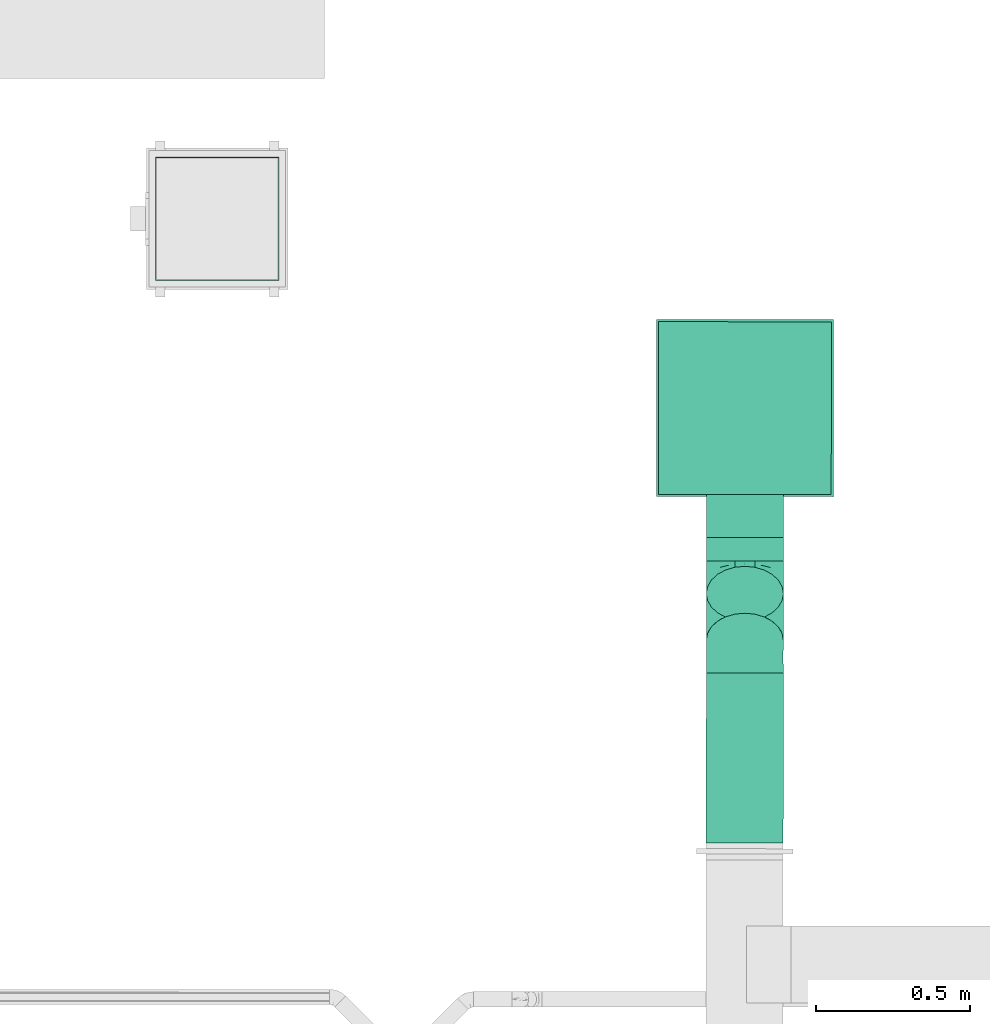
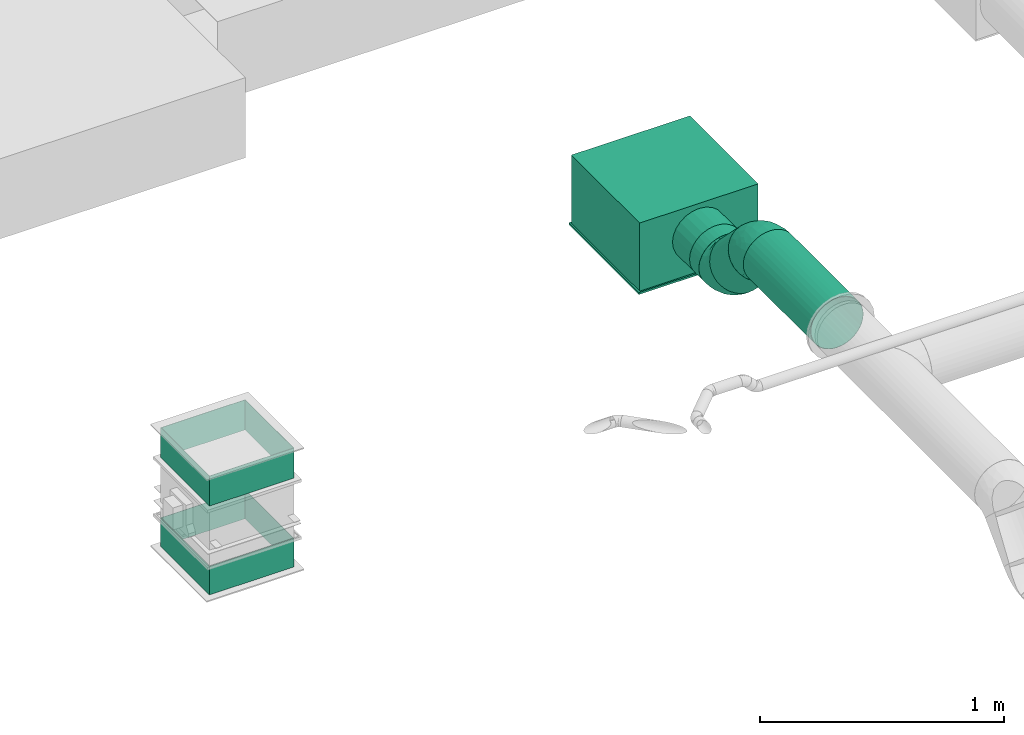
# One storey, part 23 of 63: 5 flow segments, 2 flow fittings, 1 flow terminal.
"""IFC2X3 building model written with IfcOpenShell, lengths in millimetres."""

from ifc_helpers import new_model, entity, si_unit, converted_unit, derived_unit, direction, frame, origin_with_axes, origin_2d_with_axis, place, context, subcontext, project, spatial, hollow_rectangle, hollow_circle, extrude, open_shell, surface_model, source, transform, mapped, type_object, element, save


model = new_model("IFC2X3")

# Units and contexts
model_context = context("Model", 3, precision=0.01, world=frame((0.0, 4.29681676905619e-09, 0.0)), true_north=direction((4.01073788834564e-13, 1.0)))
plan_context = context("Plan", 3, precision=0.01, world=frame((0.0, 4.29681676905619e-09, 0.0)), true_north=direction((4.01073788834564e-13, 1.0)))
body_context = subcontext(model_context, "Body", "Model", "MODEL_VIEW")
ifc_project = project(units=[converted_unit("PLANEANGLEUNIT", "DEGREE", entity("IfcPositiveLengthMeasure", 0.0174532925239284), si_unit("PLANEANGLEUNIT", "RADIAN"), dimensions=[0, 0, 0, 0, 0, 0, 0]), si_unit("AREAUNIT", "SQUARE_METRE"), si_unit("LENGTHUNIT", "METRE", prefix="MILLI"), si_unit("MASSUNIT", "GRAM", prefix="KILO"), si_unit("POWERUNIT", "WATT"), si_unit("PRESSUREUNIT", "PASCAL"), si_unit("FORCEUNIT", "NEWTON", prefix="KILO"), si_unit("ELECTRICVOLTAGEUNIT", "VOLT"), si_unit("ELECTRICCURRENTUNIT", "AMPERE"), si_unit("THERMODYNAMICTEMPERATUREUNIT", "DEGREE_CELSIUS"), si_unit("TIMEUNIT", "SECOND"), si_unit("VOLUMEUNIT", "CUBIC_METRE"), derived_unit("LINEARVELOCITYUNIT", [(si_unit("LENGTHUNIT", "METRE"), 1), (si_unit("TIMEUNIT", "SECOND"), -1)]), derived_unit("VOLUMETRICFLOWRATEUNIT", [(si_unit("VOLUMEUNIT", "CUBIC_METRE"), 1), (si_unit("TIMEUNIT", "SECOND"), -1)]), derived_unit("THERMALTRANSMITTANCEUNIT", [(si_unit("POWERUNIT", "WATT"), 1), (si_unit("THERMODYNAMICTEMPERATUREUNIT", "KELVIN"), -1), (si_unit("AREAUNIT", "SQUARE_METRE"), -1)]), derived_unit("SOUNDPRESSUREUNIT", [(si_unit("PRESSUREUNIT", "PASCAL"), 1)])], contexts=[model_context, plan_context])

# Site, building, storey
site_placement = place(None, frame((0.0, -4.29681676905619e-09, 0.0), z_axis=(0.0, 0.0, 1.0), x_axis=(1.0, 0.0, 0.0)))
site = spatial("IfcSite", under=ifc_project, at=site_placement, CompositionType="ELEMENT")
building_placement = place(site_placement, frame((0.0, 4.29681676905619e-09, 0.0), z_axis=(0.0, 0.0, 1.0), x_axis=(1.0, 0.0, 0.0)))
building = spatial("IfcBuilding", under=site, at=building_placement, Name="mc-building", CompositionType="ELEMENT")
storey_placement = place(building_placement, frame((0.0, 0.0, 210900.0), z_axis=(0.0, 0.0, 1.0), x_axis=(1.0, 0.0, 0.0)))
storey = spatial("IfcBuildingStorey", under=building, at=storey_placement, Name="Nivå F", CompositionType="ELEMENT", Elevation=210900.0)

# Flow fittings
duct_fitting_type = type_object("IfcDuctFittingType", Name="magicirc_elbow_short_001", PredefinedType="BEND")
shared_shape_1 = source(origin_with_axes(), body_context, "Body", "SurfaceModel", [
    surface_model("IfcShellBasedSurfaceModel", [(-62.13204, 0.0, -125.0), (-62.13204, -32.35238, -120.74073), (-62.13204, 32.35238, -120.74073), (-62.13204, 62.5, -108.25318), (-62.13204, 88.38835, -88.38835), (-62.13204, 108.25318, -62.5), (-62.13204, 120.74073, -32.35238), (-62.13204, -62.5, -108.25318), (-62.13204, -88.38835, -88.38835), (-62.13204, -125.0, 0.0), (-62.13204, -108.25318, -62.5), (-62.13204, -120.74073, -32.35238), (-62.13204, 125.0, 0.0), (-62.13204, -120.74073, 32.35238), (-62.13204, 120.74073, 32.35238), (-62.13204, 108.25318, 62.5), (-62.13204, 32.35238, 120.74073), (-62.13204, 62.5, 108.25318), (-62.13204, 88.38835, 88.38835), (-62.13204, -88.38835, 88.38835), (-62.13204, -108.25318, 62.5), (-62.13204, -32.35238, 120.74073), (-62.13204, 0.0, 125.0), (-62.13204, -62.5, 108.25318), (-32.61257, 120.48054, -62.5), (-41.44261, 129.31057, -32.35238), (-44.45436, 132.32233, 0.0), (-41.44261, 129.31057, 32.35238), (-32.61257, 120.48054, 62.5), (-39.32094, -100.77129, 72.52866), (-25.3983, -115.58366, 40.92131), (-9.38975, -99.61313, 67.6303), (-40.71594, 99.20513, 81.38635), (-18.56602, 106.43398, 88.38835), (6.93461, -16.74165, 121.22697), (-29.92798, -19.88945, 122.8817), (-17.69423, -50.99343, 111.83063), (-28.63512, 12.8945, 124.68547), (-43.55871, 45.16564, 117.17454), (-19.1971, 46.34588, 119.14586), (20.11216, -107.05726, 35.36285), (37.22525, -89.79474, 60.1728), (-42.64489, 65.81413, 107.6176), (18.18237, -43.89615, 109.72868), (-48.14682, 116.23669, 52.46898), (11.13029, 29.36587, 124.68547), (-8.4822, -119.71595, 0.0), (17.31186, -111.89141, 0.0), (-27.44697, 77.92943, 103.54984), (-1.13628, 62.73759, 117.17454), (-0.26019, 88.12816, 108.25318), (29.58221, -71.41779, 87.09722), (2.27359, -83.55864, 84.32151), (46.20365, -49.09439, 98.73245), (43.10591, -104.06687, 0.0), (-28.63512, 12.89449, -124.68547), (-29.92797, -19.88945, -122.8817), (11.13029, 29.36586, -124.68547), (-19.1971, 46.34588, -119.14586), (-43.55871, 45.16564, -117.17454), (-35.69649, 74.51237, -103.54983), (-25.3983, -115.58366, -40.92131), (-48.14682, 116.23669, -52.46898), (-39.32094, -100.77129, -72.52866), (-16.38313, 76.69211, -107.6176), (-18.56602, 106.43398, -88.38835), (-0.26019, 88.12816, -108.25318), (-17.69423, -50.99343, -111.83063), (6.93461, -16.74165, -121.22697), (-1.13628, 62.73759, -117.17454), (48.5695, -23.54609, -111.83063), (35.22623, 7.0983, -122.8817), (-9.38975, -99.61313, -67.63031), (2.04406, -67.38589, -98.73245), (29.58221, -71.41778, -87.09723), (43.93399, 43.934, -125.0), (106.43399, -18.56599, 88.38835), (132.32235, -44.45434, 0.0), (21.05739, 66.81058, -120.74073), (88.12817, -0.26017, 108.25318), (66.81057, 21.05741, -120.74073), (106.43399, -18.56599, -88.38835), (88.12817, -0.26017, -108.25318), (129.31058, -41.44258, -32.35238), (120.48055, -32.61255, -62.5), (21.05739, 66.81058, 120.74073), (43.93399, 43.934, 125.0), (129.31058, -41.44258, 32.35238), (120.48055, -32.61255, 62.5), (66.81057, 21.05741, 120.74073), (-31.08246, -121.94188, 0.0), (35.22622, 7.09831, 122.8817), (-25.98217, -78.69805, 94.74512), (-3.43913, -67.17105, 100.02812), (77.07669, -63.79755, 67.6303), (61.9235, -89.5906, 35.66991), (-52.56496, 126.90301, 0.0), (99.68931, -63.77067, 40.92131), (48.5695, -23.54609, 111.83062), (99.06018, -43.45194, 72.52866), (74.0201, -37.27574, 94.74512), (108.20455, -64.2473, 0.0), (90.64979, -78.65413, 0.0), (66.87785, -91.36049, 0.0), (19.56361, -107.13664, -35.66991), (-41.35812, 98.93914, -81.38635), (-25.98217, -78.69805, -94.74512), (61.47949, -89.92235, -35.36285), (18.18239, -43.89616, -109.72867), (57.47721, -60.69254, -84.32152), (74.02009, -37.27574, -94.74513), (77.07669, -63.79755, -67.6303), (37.17223, -89.81669, -60.17279), (99.68931, -63.77066, -40.92131), (99.06018, -43.45194, -72.52866), (49.92893, -45.06527, -100.02812)], [open_shell([[[0, 1, 2]], [[3, 2, 4]], [[1, 5, 2]], [[4, 2, 5]], [[5, 1, 6]], [[7, 8, 1]], [[9, 1, 8]], [[10, 11, 8]], [[9, 8, 11]], [[9, 6, 1]], [[9, 12, 6]], [[12, 13, 14]], [[15, 14, 16]], [[16, 17, 18]], [[15, 16, 18]], [[16, 14, 19]], [[20, 19, 13]], [[19, 14, 13]], [[21, 22, 23]], [[19, 23, 22]], [[19, 22, 16]], [[9, 13, 12]], [[24, 25, 26]], [[26, 27, 28]], [[29, 30, 31]], [[32, 33, 28]], [[30, 20, 13]], [[34, 35, 36]], [[21, 35, 22]], [[21, 23, 36]], [[16, 22, 37]], [[38, 37, 39]], [[31, 40, 41]], [[42, 17, 38]], [[38, 17, 16]], [[43, 34, 36]], [[35, 37, 22]], [[14, 15, 44]], [[42, 32, 18]], [[29, 19, 20]], [[40, 31, 30]], [[37, 45, 39]], [[45, 37, 34]], [[40, 46, 47]], [[42, 18, 17]], [[33, 32, 48]], [[27, 44, 28]], [[48, 39, 49]], [[33, 48, 50]], [[44, 32, 28]], [[18, 32, 15]], [[36, 35, 21]], [[37, 35, 34]], [[41, 51, 52]], [[14, 44, 27]], [[32, 44, 15]], [[37, 38, 16]], [[42, 39, 48]], [[39, 42, 38]], [[42, 48, 32]], [[48, 49, 50]], [[45, 49, 39]], [[30, 29, 20]], [[53, 43, 51]], [[46, 40, 30]], [[47, 54, 40]], [[41, 52, 31]], [[0, 2, 55]], [[56, 1, 0]], [[57, 55, 58]], [[59, 60, 58]], [[10, 61, 11]], [[3, 4, 60]], [[62, 6, 25]], [[61, 10, 63]], [[64, 65, 66]], [[1, 56, 67]], [[8, 63, 10]], [[7, 1, 67]], [[56, 55, 68]], [[25, 24, 62]], [[69, 64, 66]], [[2, 3, 59]], [[59, 55, 2]], [[69, 57, 58]], [[70, 68, 71]], [[55, 57, 68]], [[55, 56, 0]], [[67, 56, 68]], [[57, 71, 68]], [[6, 62, 5]], [[60, 59, 3]], [[55, 59, 58]], [[64, 58, 60]], [[58, 64, 69]], [[61, 63, 72]], [[72, 73, 74]], [[75, 76, 77]], [[66, 26, 78]], [[78, 79, 75]], [[24, 66, 65]], [[66, 24, 26]], [[80, 81, 82]], [[80, 75, 81]], [[81, 83, 84]], [[83, 81, 77]], [[75, 77, 81]], [[26, 28, 50]], [[50, 85, 26]], [[50, 28, 33]], [[26, 85, 86]], [[87, 76, 88]], [[77, 76, 87]], [[79, 86, 89]], [[76, 75, 79]], [[86, 79, 26]], [[78, 26, 79]], [[90, 46, 30]], [[91, 45, 34]], [[23, 92, 36]], [[52, 93, 92]], [[94, 41, 95]], [[23, 19, 92]], [[96, 14, 27]], [[40, 95, 41]], [[96, 12, 14]], [[94, 95, 97]], [[40, 54, 95]], [[98, 89, 91]], [[99, 88, 76]], [[89, 98, 79]], [[88, 99, 97]], [[88, 97, 87]], [[98, 100, 79]], [[53, 94, 100]], [[97, 101, 87]], [[85, 50, 49]], [[41, 94, 51]], [[30, 13, 90]], [[26, 96, 27]], [[95, 102, 97]], [[95, 54, 103]], [[86, 91, 89]], [[86, 85, 45]], [[45, 85, 49]], [[34, 43, 98]], [[29, 92, 19]], [[79, 100, 76]], [[52, 92, 31]], [[95, 103, 102]], [[53, 100, 98]], [[99, 100, 94]], [[45, 91, 86]], [[98, 91, 34]], [[13, 9, 90]], [[101, 97, 102]], [[101, 77, 87]], [[92, 29, 31]], [[100, 99, 76]], [[97, 99, 94]], [[93, 36, 92]], [[51, 43, 93]], [[51, 93, 52]], [[43, 36, 93]], [[43, 53, 98]], [[94, 53, 51]], [[104, 46, 61]], [[78, 75, 57]], [[4, 105, 60]], [[73, 72, 106]], [[80, 82, 70]], [[61, 90, 11]], [[83, 77, 101]], [[106, 7, 67]], [[107, 102, 103]], [[104, 54, 47]], [[72, 104, 61]], [[106, 8, 7]], [[68, 108, 67]], [[6, 12, 96]], [[109, 110, 111]], [[96, 26, 25]], [[112, 72, 74]], [[113, 83, 101]], [[82, 81, 110]], [[113, 84, 83]], [[64, 105, 65]], [[4, 5, 105]], [[114, 81, 84]], [[110, 109, 115]], [[70, 82, 110]], [[66, 78, 69]], [[75, 80, 71]], [[111, 114, 113]], [[108, 68, 70]], [[113, 101, 102]], [[107, 104, 112]], [[107, 111, 113]], [[111, 107, 112]], [[71, 57, 75]], [[104, 47, 46]], [[96, 25, 6]], [[114, 110, 81]], [[107, 54, 104]], [[73, 106, 67]], [[63, 106, 72]], [[62, 105, 5]], [[65, 105, 24]], [[70, 71, 80]], [[90, 61, 46]], [[90, 9, 11]], [[72, 112, 104]], [[112, 74, 109]], [[105, 62, 24]], [[57, 69, 78]], [[64, 60, 105]], [[113, 114, 84]], [[110, 114, 111]], [[106, 63, 8]], [[115, 70, 110]], [[73, 108, 74]], [[102, 107, 113]], [[103, 54, 107]], [[112, 109, 111]], [[74, 108, 115]], [[74, 115, 109]], [[108, 70, 115]], [[108, 73, 67]]])]),
])
flow_fitting_1_placement = place(storey_placement, frame((523302.91566, 453842.54179, 3960.01264), z_axis=(-0.999999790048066, 0.000647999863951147, 0.0), x_axis=(-0.000647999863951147, -0.999999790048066, 0.0)))
element("IfcFlowFitting", 1, at=flow_fitting_1_placement, inside=storey, type_object=duct_fitting_type, Name="magicirc_elbow_short_001", context=body_context, shape_type="MappedRepresentation", body=[
    mapped(shared_shape_1, transform((0.0, 0.0, 0.0), scale=1.0)),
])
shared_shape_2 = source(origin_with_axes(), body_context, "Body", "SurfaceModel", [
    surface_model("IfcShellBasedSurfaceModel", [(-62.13204, 0.0, -125.0), (-62.13204, -32.35238, -120.74073), (-62.13204, 32.35238, -120.74073), (-62.13204, 62.5, -108.25318), (-62.13204, 88.38835, -88.38835), (-62.13204, 108.25318, -62.5), (-62.13204, 120.74073, -32.35238), (-62.13204, -62.5, -108.25318), (-62.13204, -88.38835, -88.38835), (-62.13204, -125.0, 0.0), (-62.13204, -108.25318, -62.5), (-62.13204, -120.74073, -32.35238), (-62.13204, 125.0, 0.0), (-62.13204, -120.74073, 32.35238), (-62.13204, 120.74073, 32.35238), (-62.13204, 108.25318, 62.5), (-62.13204, 32.35238, 120.74073), (-62.13204, 62.5, 108.25318), (-62.13204, 88.38835, 88.38835), (-62.13204, -88.38835, 88.38835), (-62.13204, -108.25318, 62.5), (-62.13204, -32.35238, 120.74073), (-62.13204, 0.0, 125.0), (-62.13204, -62.5, 108.25318), (-32.61257, 120.48054, -62.5), (-41.44261, 129.31057, -32.35238), (-44.45436, 132.32233, 0.0), (-41.44261, 129.31057, 32.35238), (-32.61257, 120.48054, 62.5), (-39.32094, -100.77129, 72.52866), (-25.3983, -115.58366, 40.92131), (-9.38975, -99.61313, 67.6303), (-40.71594, 99.20513, 81.38635), (-18.56602, 106.43398, 88.38835), (6.93461, -16.74165, 121.22697), (-29.92798, -19.88945, 122.8817), (-17.69423, -50.99343, 111.83063), (-28.63512, 12.8945, 124.68547), (-43.55871, 45.16564, 117.17454), (-19.1971, 46.34588, 119.14586), (20.11216, -107.05726, 35.36285), (37.22525, -89.79474, 60.1728), (-42.64489, 65.81413, 107.6176), (18.18237, -43.89615, 109.72868), (-48.14682, 116.23669, 52.46898), (11.13029, 29.36587, 124.68547), (-8.4822, -119.71595, 0.0), (17.31186, -111.89141, 0.0), (-27.44697, 77.92943, 103.54984), (-1.13628, 62.73759, 117.17454), (-0.26019, 88.12816, 108.25318), (29.58221, -71.41779, 87.09722), (2.27359, -83.55864, 84.32151), (46.20365, -49.09439, 98.73245), (43.10591, -104.06687, 0.0), (-28.63512, 12.89449, -124.68547), (-29.92797, -19.88945, -122.8817), (11.13029, 29.36586, -124.68547), (-19.1971, 46.34588, -119.14586), (-43.55871, 45.16564, -117.17454), (-35.69649, 74.51237, -103.54983), (-25.3983, -115.58366, -40.92131), (-48.14682, 116.23669, -52.46898), (-39.32094, -100.77129, -72.52866), (-16.38313, 76.69211, -107.6176), (-18.56602, 106.43398, -88.38835), (-0.26019, 88.12816, -108.25318), (-17.69423, -50.99343, -111.83063), (6.93461, -16.74165, -121.22697), (-1.13628, 62.73759, -117.17454), (48.5695, -23.54609, -111.83063), (35.22623, 7.0983, -122.8817), (-9.38975, -99.61313, -67.63031), (2.04406, -67.38589, -98.73245), (29.58221, -71.41778, -87.09723), (43.93399, 43.934, -125.0), (106.43399, -18.56599, 88.38835), (132.32235, -44.45434, 0.0), (21.05739, 66.81058, -120.74073), (88.12817, -0.26017, 108.25318), (66.81057, 21.05741, -120.74073), (106.43399, -18.56599, -88.38835), (88.12817, -0.26017, -108.25318), (129.31058, -41.44258, -32.35238), (120.48055, -32.61255, -62.5), (21.05739, 66.81058, 120.74073), (43.93399, 43.934, 125.0), (129.31058, -41.44258, 32.35238), (120.48055, -32.61255, 62.5), (66.81057, 21.05741, 120.74073), (-31.08246, -121.94188, 0.0), (35.22622, 7.09831, 122.8817), (77.07669, -63.79755, 67.6303), (61.9235, -89.5906, 35.66991), (-52.56496, 126.90301, 0.0), (99.68931, -63.77067, 40.92131), (48.5695, -23.54609, 111.83062), (99.06018, -43.45194, 72.52866), (74.0201, -37.27574, 94.74512), (108.20455, -64.2473, 0.0), (90.64979, -78.65413, 0.0), (66.87785, -91.36049, 0.0), (-3.43913, -67.17105, 100.02812), (19.56361, -107.13664, -35.66991), (-41.35812, 98.93914, -81.38635), (-25.98217, -78.69805, -94.74512), (61.47949, -89.92235, -35.36285), (18.18239, -43.89616, -109.72867), (57.47721, -60.69254, -84.32152), (74.02009, -37.27574, -94.74513), (77.07669, -63.79755, -67.6303), (37.17223, -89.81669, -60.17279), (99.68931, -63.77066, -40.92131), (99.06018, -43.45194, -72.52866), (49.92893, -45.06527, -100.02812), (-25.98217, -78.69805, 94.74512)], [open_shell([[[0, 1, 2]], [[3, 2, 4]], [[1, 5, 2]], [[4, 2, 5]], [[5, 1, 6]], [[7, 8, 1]], [[9, 1, 8]], [[10, 11, 8]], [[9, 8, 11]], [[9, 6, 1]], [[9, 12, 6]], [[12, 13, 14]], [[15, 14, 16]], [[16, 17, 18]], [[15, 16, 18]], [[16, 14, 19]], [[20, 19, 13]], [[19, 14, 13]], [[21, 22, 23]], [[19, 23, 22]], [[19, 22, 16]], [[9, 13, 12]], [[24, 25, 26]], [[26, 27, 28]], [[29, 30, 31]], [[32, 33, 28]], [[30, 20, 13]], [[34, 35, 36]], [[21, 35, 22]], [[21, 23, 36]], [[16, 22, 37]], [[38, 37, 39]], [[31, 40, 41]], [[42, 17, 38]], [[38, 17, 16]], [[43, 34, 36]], [[35, 37, 22]], [[14, 15, 44]], [[42, 32, 18]], [[29, 19, 20]], [[40, 31, 30]], [[37, 45, 39]], [[45, 37, 34]], [[40, 46, 47]], [[42, 18, 17]], [[33, 32, 48]], [[27, 44, 28]], [[48, 39, 49]], [[33, 48, 50]], [[44, 32, 28]], [[18, 32, 15]], [[36, 35, 21]], [[37, 35, 34]], [[41, 51, 52]], [[14, 44, 27]], [[32, 44, 15]], [[37, 38, 16]], [[42, 39, 48]], [[39, 42, 38]], [[42, 48, 32]], [[48, 49, 50]], [[45, 49, 39]], [[30, 29, 20]], [[53, 43, 51]], [[46, 40, 30]], [[47, 54, 40]], [[41, 52, 31]], [[0, 2, 55]], [[56, 1, 0]], [[57, 55, 58]], [[59, 60, 58]], [[10, 61, 11]], [[3, 4, 60]], [[62, 6, 25]], [[61, 10, 63]], [[64, 65, 66]], [[1, 56, 67]], [[8, 63, 10]], [[7, 1, 67]], [[56, 55, 68]], [[25, 24, 62]], [[69, 64, 66]], [[2, 3, 59]], [[59, 55, 2]], [[69, 57, 58]], [[70, 68, 71]], [[55, 57, 68]], [[55, 56, 0]], [[67, 56, 68]], [[57, 71, 68]], [[6, 62, 5]], [[60, 59, 3]], [[55, 59, 58]], [[64, 58, 60]], [[58, 64, 69]], [[61, 63, 72]], [[72, 73, 74]], [[75, 76, 77]], [[66, 26, 78]], [[78, 79, 75]], [[24, 66, 65]], [[66, 24, 26]], [[80, 81, 82]], [[80, 75, 81]], [[81, 83, 84]], [[83, 81, 77]], [[75, 77, 81]], [[26, 28, 50]], [[50, 85, 26]], [[50, 28, 33]], [[26, 85, 86]], [[87, 76, 88]], [[77, 76, 87]], [[79, 86, 89]], [[76, 75, 79]], [[86, 79, 26]], [[78, 26, 79]], [[90, 46, 30]], [[91, 45, 34]], [[92, 41, 93]], [[94, 14, 27]], [[40, 93, 41]], [[94, 12, 14]], [[92, 93, 95]], [[40, 54, 93]], [[96, 89, 91]], [[97, 88, 76]], [[89, 96, 79]], [[88, 97, 95]], [[88, 95, 87]], [[96, 98, 79]], [[53, 92, 98]], [[95, 99, 87]], [[85, 50, 49]], [[41, 92, 51]], [[30, 13, 90]], [[26, 94, 27]], [[93, 100, 95]], [[93, 54, 101]], [[86, 91, 89]], [[86, 85, 45]], [[45, 85, 49]], [[34, 43, 96]], [[79, 98, 76]], [[93, 101, 100]], [[53, 98, 96]], [[97, 98, 92]], [[45, 91, 86]], [[96, 91, 34]], [[13, 9, 90]], [[99, 95, 100]], [[99, 77, 87]], [[98, 97, 76]], [[95, 97, 92]], [[51, 43, 102]], [[51, 102, 52]], [[43, 36, 102]], [[43, 53, 96]], [[92, 53, 51]], [[103, 46, 61]], [[78, 75, 57]], [[4, 104, 60]], [[73, 72, 105]], [[80, 82, 70]], [[61, 90, 11]], [[83, 77, 99]], [[105, 7, 67]], [[106, 100, 101]], [[103, 54, 47]], [[72, 103, 61]], [[105, 8, 7]], [[68, 107, 67]], [[6, 12, 94]], [[108, 109, 110]], [[94, 26, 25]], [[111, 72, 74]], [[112, 83, 99]], [[82, 81, 109]], [[112, 84, 83]], [[64, 104, 65]], [[4, 5, 104]], [[113, 81, 84]], [[109, 108, 114]], [[70, 82, 109]], [[66, 78, 69]], [[75, 80, 71]], [[110, 113, 112]], [[107, 68, 70]], [[112, 99, 100]], [[106, 103, 111]], [[106, 110, 112]], [[110, 106, 111]], [[71, 57, 75]], [[103, 47, 46]], [[94, 25, 6]], [[113, 109, 81]], [[106, 54, 103]], [[73, 105, 67]], [[63, 105, 72]], [[62, 104, 5]], [[65, 104, 24]], [[70, 71, 80]], [[90, 61, 46]], [[90, 9, 11]], [[72, 111, 103]], [[111, 74, 108]], [[104, 62, 24]], [[57, 69, 78]], [[64, 60, 104]], [[112, 113, 84]], [[109, 113, 110]], [[105, 63, 8]], [[114, 70, 109]], [[73, 107, 74]], [[100, 106, 112]], [[101, 54, 106]], [[111, 108, 110]], [[74, 107, 114]], [[74, 114, 108]], [[107, 70, 114]], [[107, 73, 67]], [[23, 115, 36]], [[52, 102, 115]], [[23, 19, 115]], [[29, 115, 19]], [[52, 115, 31]], [[115, 29, 31]], [[102, 36, 115]]])]),
])
flow_fitting_2_placement = place(storey_placement, frame((523302.76021, 453602.55454, 4200.0), z_axis=(0.999999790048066, -0.000647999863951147, -3.79470760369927e-19), x_axis=(-0.000458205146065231, -0.707106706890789, 0.707106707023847)))
element("IfcFlowFitting", 2, at=flow_fitting_2_placement, inside=storey, type_object=duct_fitting_type, Name="magicirc_elbow_short_001", context=body_context, shape_type="MappedRepresentation", body=[
    mapped(shared_shape_2, transform((0.0, 0.0, 0.0), scale=1.0)),
])

# Flow segments
duct_segment_type_1 = type_object("IfcDuctSegmentType", Name="KK002T - Spiro kanaler, Forsinket stål, korte bend", PredefinedType="RIGIDSEGMENT")
shared_shape_3 = source(origin_with_axes(), body_context, "Body", "SweptSolid", [
    extrude(hollow_circle(Radius=125.0, WallThickness=2.0, at=origin_2d_with_axis()), frame((0.0, 0.0, 0.0), z_axis=(1.0, 0.0, 0.0), x_axis=(0.0, 1.0, 0.0)), (0.0, 0.0, 1.0), 75.7),
])
flow_segment_1_placement = place(storey_placement, frame((523303.00495, 453980.3938, 3960.01264), z_axis=(0.0, 0.0, 1.0), x_axis=(-0.000647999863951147, -0.999999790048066, 0.0)))
element("IfcFlowSegment", 3, at=flow_segment_1_placement, inside=storey, type_object=duct_segment_type_1, Name="KK002T - Spiro kanaler, Forsinket stål, korte bend", context=body_context, shape_type="MappedRepresentation", body=[
    mapped(shared_shape_3, transform((0.0, 0.0, 0.0), scale=1.0)),
])
shared_shape_4 = source(origin_with_axes(), body_context, "Body", "SweptSolid", [
    extrude(hollow_circle(Radius=125.0, WallThickness=2.0, at=origin_2d_with_axis()), frame((0.0, 0.0, 0.0), z_axis=(1.0, 0.0, 0.0), x_axis=(0.0, 1.0, 0.0)), (0.0, 0.0, 1.0), 215.1),
])
flow_segment_2_placement = place(storey_placement, frame((523302.8872, 453798.60781, 4003.94662999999), z_axis=(0.00045799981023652, 0.707106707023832, 0.707106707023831), x_axis=(-0.000457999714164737, -0.707106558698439, 0.707106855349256)))
element("IfcFlowSegment", 4, at=flow_segment_2_placement, inside=storey, type_object=duct_segment_type_1, Name="KK002T - Spiro kanaler, Forsinket stål, korte bend", context=body_context, shape_type="MappedRepresentation", body=[
    mapped(shared_shape_4, transform((0.0, 0.0, 0.0), scale=1.0)),
])
duct_segment_type_2 = type_object("IfcDuctSegmentType", Name="KK002T - Rektangulære, Forsinket stål", PredefinedType="RIGIDSEGMENT")
shared_shape_5 = source(origin_with_axes(), body_context, "Body", "SweptSolid", [
    extrude(hollow_rectangle(XDim=400.0, YDim=400.0, WallThickness=2.0, at=origin_2d_with_axis()), frame((0.0, 0.0, 0.0), z_axis=(1.0, 0.0, 0.0), x_axis=(0.0, 1.0, 0.0)), (0.0, 0.0, 1.0), 143.6),
])
flow_segment_3_placement = place(storey_placement, frame((521591.3203, 455014.4619, 2403.07848), z_axis=(-1.0, 0.0, 0.0), x_axis=(0.0, 0.0, 1.0)))
element("IfcFlowSegment", 5, at=flow_segment_3_placement, inside=storey, type_object=duct_segment_type_2, Name="KK002T - Rektangulære, Forsinket stål", context=body_context, shape_type="MappedRepresentation", body=[
    mapped(shared_shape_5, transform((0.0, 0.0, 0.0), scale=1.0)),
])
shared_shape_6 = source(origin_with_axes(), body_context, "Body", "SweptSolid", [
    extrude(hollow_circle(Radius=125.0, WallThickness=2.0, at=origin_2d_with_axis()), frame((0.0, 0.0, 0.0), z_axis=(1.0, 0.0, 0.0), x_axis=(0.0, 1.0, 0.0)), (0.0, 0.0, 1.0), 550.4),
])
flow_segment_4_placement = place(storey_placement, frame((523302.41525, 452990.00311, 4200.0), z_axis=(0.0, 0.0, 1.0), x_axis=(0.000623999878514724, 0.999999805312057, 0.0)))
element("IfcFlowSegment", 6, at=flow_segment_4_placement, inside=storey, type_object=duct_segment_type_1, Name="KK002T - Spiro kanaler, Forsinket stål, korte bend", context=body_context, shape_type="MappedRepresentation", body=[
    mapped(shared_shape_6, transform((0.0, 0.0, 0.0), scale=1.0)),
])
shared_shape_7 = source(origin_with_axes(), body_context, "Body", "SweptSolid", [
    extrude(hollow_rectangle(XDim=400.0, YDim=400.0, WallThickness=2.0, at=origin_2d_with_axis()), frame((0.0, 0.0, 0.0), z_axis=(1.0, 0.0, 0.0), x_axis=(0.0, 1.0, 0.0)), (0.0, 0.0, 1.0), 150.2),
])
flow_segment_5_placement = place(storey_placement, frame((521591.3203, 455014.4619, 2996.92152), z_axis=(0.0, -1.0, 0.0), x_axis=(0.0, 0.0, -1.0)))
element("IfcFlowSegment", 7, at=flow_segment_5_placement, inside=storey, type_object=duct_segment_type_2, Name="KK002T - Rektangulære, Forsinket stål", context=body_context, shape_type="MappedRepresentation", body=[
    mapped(shared_shape_7, transform((0.0, 0.0, 0.0), scale=1.0)),
])

# Flow terminal
air_terminal_type = type_object("IfcAirTerminalType", Name="NS19-H-S-2-250 - 4-way", PredefinedType="NOTDEFINED")
shared_shape_8 = source(origin_with_axes(), body_context, "Body", "SurfaceModel", [
    surface_model("IfcShellBasedSurfaceModel", [(-287.5, 287.5, 0.0), (-287.5, -287.5, 0.0), (287.5, -287.5, 0.0), (287.5, 287.5, 0.0), (287.5, 287.5, -10.0), (287.5, -287.5, -10.0), (-287.5, -287.5, -10.0), (-287.5, 287.5, -10.0), (-280.0, 280.0, 340.0), (-280.0, -280.0, 340.0), (280.0, -280.0, 340.0), (280.0, 280.0, 340.0), (280.0, 280.0, 0.0), (280.0, -280.0, 0.0), (-280.0, -280.0, 0.0), (-280.0, 280.0, 0.0), (-280.0, 62.5, 81.74683), (-280.0, 88.38835, 101.61165), (-280.0, 62.4, 81.92003), (-280.0, 32.30062, 69.45246), (-280.0, 0.0, 65.2), (-280.0, 32.35238, 69.25927), (-280.0, 0.0, 65.0), (-280.0, 88.24693, 101.75307), (-280.0, 120.74073, 157.64763), (-280.0, 124.8, 189.99999), (-280.0, 120.54755, 157.69939), (-280.0, 125.0, 189.99999), (-280.0, 108.25318, 127.5), (-280.0, 108.07997, 127.6), (-280.0, -32.30062, 69.45246), (-280.0, -32.35238, 69.25927), (-280.0, -62.4, 81.92003), (-280.0, -88.38835, 101.61165), (-280.0, -62.5, 81.74683), (-280.0, -88.24693, 101.75307), (-280.0, -108.07997, 127.6), (-280.0, -108.25318, 127.5), (-280.0, -120.54755, 157.69939), (-280.0, -120.74073, 157.64763), (-280.0, -124.8, 189.99999), (-280.0, -125.0, 189.99999), (-280.0, 120.74073, 222.35238), (-280.0, 120.54755, 222.30062), (-280.0, 108.07997, 252.4), (-280.0, 108.25318, 252.49999), (-280.0, 88.24693, 278.24693), (-280.0, 88.38835, 278.38835), (-280.0, 62.5, 298.25318), (-280.0, 62.4, 298.07997), (-280.0, 32.30062, 310.54754), (-280.0, 32.35238, 310.74073), (-280.0, 0.0, 314.80001), (-280.0, 0.0, 315.0), (-280.0, -108.25318, 252.49999), (-280.0, -108.07997, 252.4), (-280.0, -88.38835, 278.38835), (-280.0, -88.24693, 278.24693), (-280.0, -120.74073, 222.35238), (-280.0, -120.54755, 222.30062), (-280.0, -32.30062, 310.54754), (-280.0, -32.35238, 310.74073), (-280.0, -62.4, 298.07997), (-280.0, -62.5, 298.25318), (-420.00002, 62.5, 298.25318), (-420.00002, 88.38835, 278.38835), (-420.00002, 62.4, 298.07997), (-420.00002, 32.30062, 310.54754), (-420.00002, 0.0, 314.80001), (-420.00002, 32.35238, 310.74073), (-420.00002, 0.0, 315.0), (-420.00002, 88.24693, 278.24693), (-420.00002, 120.74073, 222.35238), (-420.00002, 124.8, 189.99999), (-420.00002, 120.54755, 222.30062), (-420.00002, 125.0, 189.99999), (-420.00002, 108.25318, 252.49999), (-420.00002, 108.07997, 252.4), (-420.00002, -32.30062, 310.54754), (-420.00002, -32.35238, 310.74073), (-420.00002, -62.4, 298.07997), (-420.00002, -88.38835, 278.38835), (-420.00002, -62.5, 298.25318), (-420.00002, -88.24693, 278.24693), (-420.00002, -108.07997, 252.4), (-420.00002, -108.25318, 252.49999), (-420.00002, -120.54755, 222.30062), (-420.00002, -120.74073, 222.35238), (-420.00002, -124.8, 189.99999), (-420.00002, -125.0, 189.99999), (-420.00002, 120.74073, 157.64763), (-420.00002, 120.54755, 157.69939), (-420.00002, 108.07997, 127.6), (-420.00002, 108.25318, 127.5), (-420.00002, 88.24693, 101.75307), (-420.00002, 88.38835, 101.61165), (-420.00002, 62.5, 81.74683), (-420.00002, 62.4, 81.92003), (-420.00002, 32.30062, 69.45246), (-420.00002, 32.35238, 69.25927), (-420.00002, 0.0, 65.2), (-420.00002, 0.0, 65.0), (-420.00002, -108.25318, 127.5), (-420.00002, -108.07997, 127.6), (-420.00002, -88.38835, 101.61165), (-420.00002, -88.24693, 101.75307), (-420.00002, -120.74073, 157.64763), (-420.00002, -120.54755, 157.69939), (-420.00002, -32.30062, 69.45246), (-420.00002, -32.35238, 69.25927), (-420.00002, -62.4, 81.92003), (-420.00002, -62.5, 81.74683)], [open_shell([[[0, 1, 2]], [[2, 3, 0]], [[4, 5, 6]], [[6, 7, 4]], [[2, 1, 6]], [[6, 5, 2]], [[3, 2, 5]], [[5, 4, 3]], [[0, 3, 4]], [[4, 7, 0]], [[1, 0, 7]], [[7, 6, 1]], [[8, 9, 10]], [[10, 11, 8]], [[12, 13, 14]], [[14, 15, 12]], [[10, 9, 14]], [[14, 13, 10]], [[11, 10, 13]], [[13, 12, 11]], [[8, 11, 12]], [[12, 15, 8]], [[9, 8, 15]], [[15, 14, 9]], [[16, 17, 18]], [[16, 18, 19]], [[20, 21, 19]], [[21, 20, 22]], [[19, 21, 16]], [[18, 17, 23]], [[24, 25, 26]], [[25, 24, 27]], [[24, 26, 28]], [[23, 28, 29]], [[28, 23, 17]], [[29, 28, 26]], [[22, 30, 31]], [[31, 30, 32]], [[33, 34, 35]], [[32, 34, 31]], [[32, 35, 34]], [[22, 20, 30]], [[36, 37, 33]], [[37, 36, 38]], [[36, 33, 35]], [[39, 38, 40]], [[38, 39, 37]], [[39, 40, 41]], [[27, 42, 43]], [[43, 42, 44]], [[44, 45, 46]], [[45, 44, 42]], [[46, 45, 47]], [[47, 48, 49]], [[49, 48, 50]], [[50, 51, 52]], [[51, 50, 48]], [[52, 51, 53]], [[49, 46, 47]], [[54, 55, 56]], [[56, 55, 57]], [[55, 54, 58]], [[41, 59, 58]], [[58, 59, 55]], [[41, 40, 59]], [[60, 53, 61]], [[60, 61, 62]], [[57, 63, 56]], [[57, 62, 63]], [[63, 62, 61]], [[52, 53, 60]], [[43, 25, 27]], [[64, 65, 66]], [[64, 66, 67]], [[68, 69, 67]], [[69, 68, 70]], [[67, 69, 64]], [[66, 65, 71]], [[72, 73, 74]], [[73, 72, 75]], [[72, 74, 76]], [[71, 76, 77]], [[76, 71, 65]], [[77, 76, 74]], [[70, 78, 79]], [[79, 78, 80]], [[81, 82, 83]], [[80, 82, 79]], [[80, 83, 82]], [[70, 68, 78]], [[84, 85, 81]], [[85, 84, 86]], [[84, 81, 83]], [[87, 86, 88]], [[86, 87, 85]], [[87, 88, 89]], [[75, 90, 91]], [[91, 90, 92]], [[92, 93, 94]], [[93, 92, 90]], [[94, 93, 95]], [[95, 96, 97]], [[97, 96, 98]], [[98, 99, 100]], [[99, 98, 96]], [[100, 99, 101]], [[97, 94, 95]], [[102, 103, 104]], [[104, 103, 105]], [[103, 102, 106]], [[89, 107, 106]], [[106, 107, 103]], [[89, 88, 107]], [[108, 101, 109]], [[108, 109, 110]], [[105, 111, 104]], [[105, 110, 111]], [[111, 110, 109]], [[100, 101, 108]], [[91, 73, 75]], [[39, 106, 102]], [[104, 37, 102]], [[34, 111, 109]], [[104, 111, 33]], [[31, 109, 101]], [[106, 41, 89]], [[106, 39, 41]], [[102, 37, 39]], [[104, 33, 37]], [[34, 33, 111]], [[109, 31, 34]], [[101, 22, 31]], [[21, 99, 96]], [[95, 16, 96]], [[28, 93, 90]], [[95, 93, 17]], [[24, 90, 75]], [[99, 21, 22]], [[96, 16, 21]], [[95, 17, 16]], [[93, 28, 17]], [[24, 28, 90]], [[75, 27, 24]], [[99, 22, 101]], [[42, 75, 72]], [[45, 72, 76]], [[48, 64, 69]], [[51, 69, 70]], [[72, 45, 42]], [[42, 27, 75]], [[65, 47, 45]], [[47, 65, 48]], [[48, 65, 64]], [[69, 51, 48]], [[65, 45, 76]], [[70, 53, 51]], [[61, 79, 82]], [[81, 63, 82]], [[54, 85, 87]], [[81, 85, 56]], [[58, 87, 89]], [[79, 61, 53]], [[82, 63, 61]], [[81, 56, 63]], [[85, 54, 56]], [[58, 54, 87]], [[89, 41, 58]], [[79, 53, 70]], [[103, 107, 38]], [[103, 36, 105]], [[108, 110, 32]], [[35, 110, 105]], [[100, 108, 30]], [[88, 40, 107]], [[40, 38, 107]], [[38, 36, 103]], [[36, 35, 105]], [[110, 35, 32]], [[32, 30, 108]], [[30, 20, 100]], [[97, 98, 19]], [[97, 18, 94]], [[91, 92, 29]], [[23, 92, 94]], [[73, 91, 26]], [[20, 19, 98]], [[19, 18, 97]], [[18, 23, 94]], [[23, 29, 92]], [[91, 29, 26]], [[26, 25, 73]], [[100, 20, 98]], [[74, 73, 43]], [[77, 74, 44]], [[67, 66, 49]], [[68, 67, 50]], [[43, 44, 74]], [[73, 25, 43]], [[44, 46, 71]], [[49, 71, 46]], [[66, 71, 49]], [[49, 50, 67]], [[77, 44, 71]], [[50, 52, 68]], [[80, 78, 60]], [[80, 62, 83]], [[86, 84, 55]], [[57, 84, 83]], [[88, 86, 59]], [[52, 60, 78]], [[60, 62, 80]], [[62, 57, 83]], [[57, 55, 84]], [[86, 55, 59]], [[59, 40, 88]], [[68, 52, 78]]])]),
])
flow_terminal_placement = place(storey_placement, frame((523303.27702, 454400.42144, 3770.0), z_axis=(0.0, 0.0, 1.0), x_axis=(0.000647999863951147, 0.999999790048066, 0.0)))
element("IfcFlowTerminal", 8, at=flow_terminal_placement, inside=storey, type_object=air_terminal_type, Name="NS19-H-S-2-250 - 4-way", context=body_context, shape_type="MappedRepresentation", body=[
    mapped(shared_shape_8, transform((0.0, 0.0, 0.0), scale=1.0)),
])

save(model, "model.ifc")
